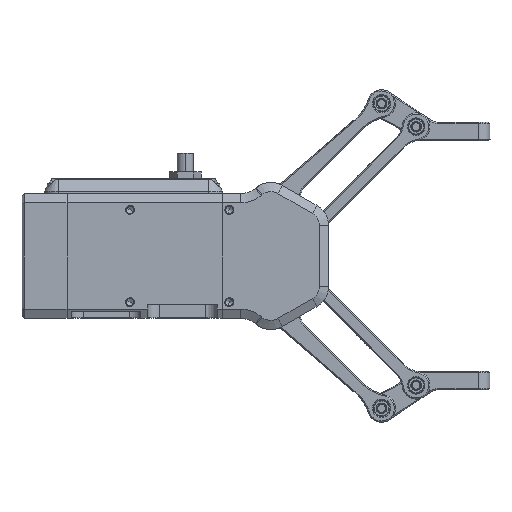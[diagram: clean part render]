
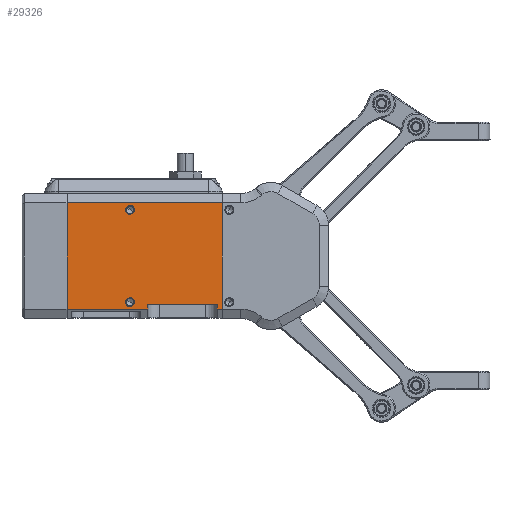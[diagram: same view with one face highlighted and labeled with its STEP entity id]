
A CAD part, front view. The second image highlights one B-rep face of the part: STEP entity #29326.
In plain terms, the highlighted planar face has unit normal (0, -1, 0) as drawn and (0, 1, 0) by its records, which use the part's own axes.
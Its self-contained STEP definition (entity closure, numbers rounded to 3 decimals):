
#29176=CARTESIAN_POINT('Vertex',(-28.986,22.5,19.079)) ;
#29179=CARTESIAN_POINT('Axis2P3D Location',(-27.3,22.5,20.)) ;
#29183=CARTESIAN_POINT('Vertex',(-25.614,22.5,20.921)) ;
#29203=CARTESIAN_POINT('Axis2P3D Location',(-27.3,22.5,20.)) ;
#29215=CARTESIAN_POINT('Axis2P3D Location',(0.,22.5,27.)) ;
#29220=CARTESIAN_POINT('Line Origine',(-66.15,22.5,-23.)) ;
#29224=CARTESIAN_POINT('Vertex',(-67.3,22.5,-23.)) ;
#29226=CARTESIAN_POINT('Vertex',(-65.,22.5,-23.)) ;
#29229=CARTESIAN_POINT('Line Origine',(-67.3,22.5,0.)) ;
#29233=CARTESIAN_POINT('Vertex',(-67.3,22.5,23.)) ;
#29236=CARTESIAN_POINT('Line Origine',(-33.65,22.5,23.)) ;
#29240=CARTESIAN_POINT('Vertex',(0.,22.5,23.)) ;
#29243=CARTESIAN_POINT('Line Origine',(0.,22.5,0.)) ;
#29247=CARTESIAN_POINT('Vertex',(0.,22.5,-23.)) ;
#29250=CARTESIAN_POINT('Line Origine',(-17.5,22.5,-23.)) ;
#29254=CARTESIAN_POINT('Vertex',(-35.,22.5,-23.)) ;
#29257=CARTESIAN_POINT('Line Origine',(-35.,22.5,-22.)) ;
#29261=CARTESIAN_POINT('Vertex',(-35.,22.5,-21.)) ;
#29264=CARTESIAN_POINT('Line Origine',(-50.,22.5,-21.)) ;
#29268=CARTESIAN_POINT('Vertex',(-65.,22.5,-21.)) ;
#29271=CARTESIAN_POINT('Line Origine',(-65.,22.5,-22.)) ;
#29290=CARTESIAN_POINT('Axis2P3D Location',(-27.3,22.5,-20.)) ;
#29294=CARTESIAN_POINT('Vertex',(-25.614,22.5,-19.079)) ;
#29296=CARTESIAN_POINT('Vertex',(-28.986,22.5,-20.921)) ;
#29300=CARTESIAN_POINT('Control Point',(-28.986,22.5,-20.921)) ;
#29301=CARTESIAN_POINT('Control Point',(-29.086,22.5,-20.738)) ;
#29302=CARTESIAN_POINT('Control Point',(-29.161,22.5,-20.542)) ;
#29303=CARTESIAN_POINT('Control Point',(-29.209,22.5,-20.337)) ;
#29304=CARTESIAN_POINT('Control Point',(-29.253,22.5,-19.862)) ;
#29305=CARTESIAN_POINT('Control Point',(-29.152,22.5,-19.393)) ;
#29306=CARTESIAN_POINT('Control Point',(-29.05,22.5,-19.142)) ;
#29307=CARTESIAN_POINT('Control Point',(-28.837,22.5,-18.803)) ;
#29308=CARTESIAN_POINT('Control Point',(-28.548,22.5,-18.531)) ;
#29309=CARTESIAN_POINT('Control Point',(-28.445,22.5,-18.449)) ;
#29310=CARTESIAN_POINT('Control Point',(-28.087,22.5,-18.212)) ;
#29311=CARTESIAN_POINT('Control Point',(-27.672,22.5,-18.08)) ;
#29312=CARTESIAN_POINT('Control Point',(-27.369,22.5,-18.045)) ;
#29313=CARTESIAN_POINT('Control Point',(-26.763,22.5,-18.095)) ;
#29314=CARTESIAN_POINT('Control Point',(-26.219,22.5,-18.369)) ;
#29315=CARTESIAN_POINT('Control Point',(-25.976,22.5,-18.559)) ;
#29316=CARTESIAN_POINT('Control Point',(-25.773,22.5,-18.796)) ;
#29317=CARTESIAN_POINT('Control Point',(-25.623,22.5,-19.063)) ;
#29318=CARTESIAN_POINT('Control Point',(-25.62,22.5,-19.069)) ;
#29319=CARTESIAN_POINT('Control Point',(-25.617,22.5,-19.074)) ;
#29320=CARTESIAN_POINT('Control Point',(-25.614,22.5,-19.079)) ;
#29180=DIRECTION('Axis2P3D Direction',(0.,1.,0.)) ;
#29204=DIRECTION('Axis2P3D Direction',(0.,1.,0.)) ;
#29216=DIRECTION('Axis2P3D Direction',(0.,1.,0.)) ;
#29217=DIRECTION('Axis2P3D XDirection',(0.,0.,-1.)) ;
#29221=DIRECTION('Vector Direction',(1.,0.,0.)) ;
#29230=DIRECTION('Vector Direction',(0.,0.,-1.)) ;
#29237=DIRECTION('Vector Direction',(1.,0.,0.)) ;
#29244=DIRECTION('Vector Direction',(0.,0.,-1.)) ;
#29251=DIRECTION('Vector Direction',(1.,0.,0.)) ;
#29258=DIRECTION('Vector Direction',(0.,0.,1.)) ;
#29265=DIRECTION('Vector Direction',(1.,0.,0.)) ;
#29272=DIRECTION('Vector Direction',(0.,0.,1.)) ;
#29291=DIRECTION('Axis2P3D Direction',(0.,1.,0.)) ;
#29181=AXIS2_PLACEMENT_3D('Circle Axis2P3D',#29179,#29180,$) ;
#29205=AXIS2_PLACEMENT_3D('Circle Axis2P3D',#29203,#29204,$) ;
#29218=AXIS2_PLACEMENT_3D('Plane Axis2P3D',#29215,#29216,#29217) ;
#29292=AXIS2_PLACEMENT_3D('Circle Axis2P3D',#29290,#29291,$) ;
#29277=ORIENTED_EDGE('',*,*,#29228,.F.) ;
#29278=ORIENTED_EDGE('',*,*,#29235,.F.) ;
#29279=ORIENTED_EDGE('',*,*,#29242,.F.) ;
#29280=ORIENTED_EDGE('',*,*,#29249,.F.) ;
#29281=ORIENTED_EDGE('',*,*,#29256,.F.) ;
#29282=ORIENTED_EDGE('',*,*,#29263,.T.) ;
#29283=ORIENTED_EDGE('',*,*,#29270,.F.) ;
#29284=ORIENTED_EDGE('',*,*,#29275,.F.) ;
#29287=ORIENTED_EDGE('',*,*,#29207,.F.) ;
#29288=ORIENTED_EDGE('',*,*,#29185,.F.) ;
#29323=ORIENTED_EDGE('',*,*,#29298,.F.) ;
#29324=ORIENTED_EDGE('',*,*,#29321,.F.) ;
#29289=FACE_BOUND('',#29286,.T.) ;
#29325=FACE_BOUND('',#29322,.T.) ;
#29222=VECTOR('Line Direction',#29221,1.) ;
#29231=VECTOR('Line Direction',#29230,1.) ;
#29238=VECTOR('Line Direction',#29237,1.) ;
#29245=VECTOR('Line Direction',#29244,1.) ;
#29252=VECTOR('Line Direction',#29251,1.) ;
#29259=VECTOR('Line Direction',#29258,1.) ;
#29266=VECTOR('Line Direction',#29265,1.) ;
#29273=VECTOR('Line Direction',#29272,1.) ;
#29326=ADVANCED_FACE('\X2\96F64EF651E04F554F53\X0\',(#29285,#29289,#29325),#29219,.T.) ;
#29299=B_SPLINE_CURVE_WITH_KNOTS('',5,(#29300,#29301,#29302,#29303,#29304,#29305,#29306,#29307,#29308,#29309,#29310,#29311,#29312,#29313,#29314,#29315,#29316,#29317,#29318,#29319,#29320),.UNSPECIFIED.,.F.,.U.,(6,3,3,3,3,3,6),(7.896,9.258,10.989,11.844,13.787,15.753,15.792),.UNSPECIFIED.) ;
#29182=CIRCLE('generated circle',#29181,1.921) ;
#29206=CIRCLE('generated circle',#29205,1.921) ;
#29293=CIRCLE('generated circle',#29292,1.921) ;
#29185=EDGE_CURVE('',#29177,#29184,#29182,.T.) ;
#29207=EDGE_CURVE('',#29184,#29177,#29206,.T.) ;
#29228=EDGE_CURVE('',#29225,#29227,#29223,.T.) ;
#29235=EDGE_CURVE('',#29234,#29225,#29232,.T.) ;
#29242=EDGE_CURVE('',#29241,#29234,#29239,.F.) ;
#29249=EDGE_CURVE('',#29248,#29241,#29246,.F.) ;
#29256=EDGE_CURVE('',#29255,#29248,#29253,.T.) ;
#29263=EDGE_CURVE('',#29255,#29262,#29260,.T.) ;
#29270=EDGE_CURVE('',#29269,#29262,#29267,.T.) ;
#29275=EDGE_CURVE('',#29227,#29269,#29274,.T.) ;
#29298=EDGE_CURVE('',#29295,#29297,#29293,.T.) ;
#29321=EDGE_CURVE('',#29297,#29295,#29299,.T.) ;
#29276=EDGE_LOOP('',(#29277,#29278,#29279,#29280,#29281,#29282,#29283,#29284)) ;
#29286=EDGE_LOOP('',(#29287,#29288)) ;
#29322=EDGE_LOOP('',(#29323,#29324)) ;
#29285=FACE_OUTER_BOUND('',#29276,.T.) ;
#29223=LINE('Line',#29220,#29222) ;
#29232=LINE('Line',#29229,#29231) ;
#29239=LINE('Line',#29236,#29238) ;
#29246=LINE('Line',#29243,#29245) ;
#29253=LINE('Line',#29250,#29252) ;
#29260=LINE('Line',#29257,#29259) ;
#29267=LINE('Line',#29264,#29266) ;
#29274=LINE('Line',#29271,#29273) ;
#29219=PLANE('Plane',#29218) ;
#29177=VERTEX_POINT('',#29176) ;
#29184=VERTEX_POINT('',#29183) ;
#29225=VERTEX_POINT('',#29224) ;
#29227=VERTEX_POINT('',#29226) ;
#29234=VERTEX_POINT('',#29233) ;
#29241=VERTEX_POINT('',#29240) ;
#29248=VERTEX_POINT('',#29247) ;
#29255=VERTEX_POINT('',#29254) ;
#29262=VERTEX_POINT('',#29261) ;
#29269=VERTEX_POINT('',#29268) ;
#29295=VERTEX_POINT('',#29294) ;
#29297=VERTEX_POINT('',#29296) ;
